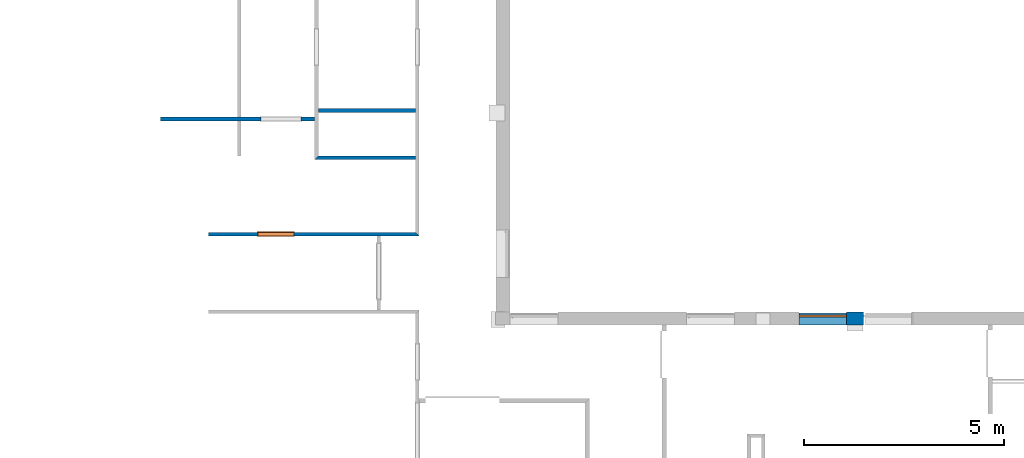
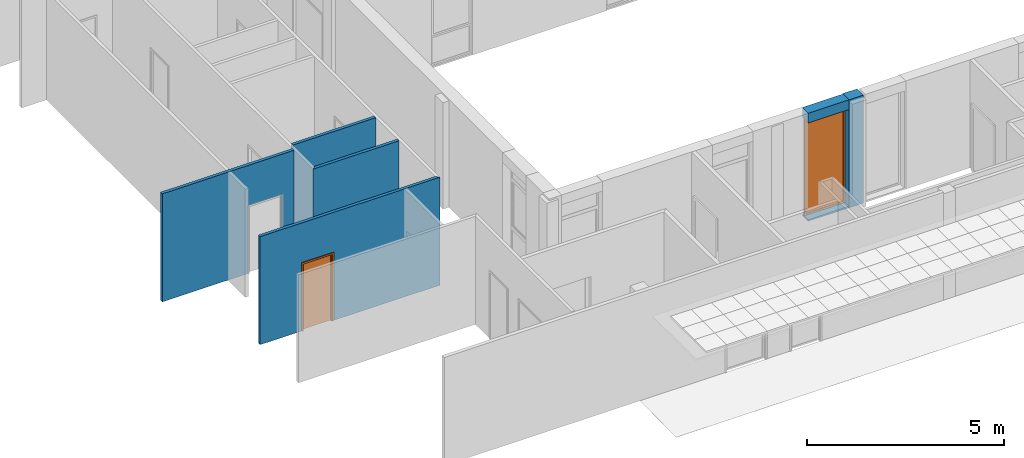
# One storey, part 26 of 60: 6 walls, 2 proxies, 3 openings.
"""IFC2X3 building model written with IfcOpenShell, lengths in millimetres."""

from ifc_helpers import new_model, entity, si_unit, converted_unit, derived_unit, money_unit, direction, frame, origin_with_axes, origin_2d_with_axis, place, context, subcontext, project, spatial, polyline, rectangle, outline, extrude, open_shell, faceted_brep, surface_model, source, transform, mapped, material, layer, layer_set, layer_usage, type_object, element, fill, save


model = new_model("IFC2X3")

# Units and contexts
model_context = context("Model", 3, precision=0.01, world=origin_with_axes(), true_north=direction((0.0, 1.0)))
body_context = subcontext(model_context, "Body", "Model", "MODEL_VIEW")
ifc_project = project(units=[si_unit("LENGTHUNIT", "METRE", prefix="MILLI"), si_unit("AREAUNIT", "SQUARE_METRE"), si_unit("VOLUMEUNIT", "CUBIC_METRE"), converted_unit("PLANEANGLEUNIT", "DEGREE", entity("IfcPlaneAngleMeasure", 0.0174532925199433), si_unit("PLANEANGLEUNIT", "RADIAN"), dimensions=[0, 0, 0, 0, 0, 0, 0]), money_unit("USD"), converted_unit("TIMEUNIT", "Year", entity("IfcTimeMeasure", 31557600.0), si_unit("TIMEUNIT", "SECOND"), dimensions=[0, 0, 1, 0, 0, 0, 0]), si_unit("MASSUNIT", "GRAM", prefix="KILO"), si_unit("THERMODYNAMICTEMPERATUREUNIT", "DEGREE_CELSIUS"), si_unit("LUMINOUSINTENSITYUNIT", "LUMEN"), si_unit("ENERGYUNIT", "JOULE", prefix="MEGA"), derived_unit("THERMALCONDUCTANCEUNIT", [(si_unit("POWERUNIT", "WATT"), 1), (si_unit("LENGTHUNIT", "METRE"), -1), (si_unit("THERMODYNAMICTEMPERATUREUNIT", "KELVIN"), -1)]), derived_unit("SPECIFICHEATCAPACITYUNIT", [(si_unit("ENERGYUNIT", "JOULE"), 1), (si_unit("MASSUNIT", "GRAM", prefix="KILO"), -1), (si_unit("THERMODYNAMICTEMPERATUREUNIT", "KELVIN"), -1)]), derived_unit("MASSDENSITYUNIT", [(si_unit("MASSUNIT", "GRAM", prefix="KILO"), 1), (si_unit("VOLUMEUNIT", "CUBIC_METRE"), -1)])], contexts=[model_context])

# Site, building, storey
site_placement = place(None, origin_with_axes())
site = spatial("IfcSite", under=ifc_project, at=site_placement, Name="Sitio", CompositionType="ELEMENT")
building_placement = place(site_placement, origin_with_axes())
building = spatial("IfcBuilding", under=site, at=building_placement, Name="Construcción", CompositionType="ELEMENT")
storey_placement = place(building_placement, frame((0.0, 0.0, 3650.0), z_axis=(0.0, 0.0, 1.0), x_axis=(1.0, 0.0, 0.0)))
storey = spatial("IfcBuildingStorey", under=building, at=storey_placement, Name="PLANTA 2ª", CompositionType="ELEMENT", Elevation=3650.0)

# Wall, opening, proxy
ifc_material_1 = material(Name="ARQ_AM246_Arrebossat_De_Guix")
ifc_layer_1 = layer(ifc_material_1, 20.0, ventilated="UNKNOWN")
ifc_material_2 = material(Name="ARQ_CE217_Gero")
ifc_layer_2 = layer(ifc_material_2, 110.0, ventilated="UNKNOWN")
ifc_material_3 = material(Name="ARQ_AI031_Aillament_Poliestireno expandido EPS")
ifc_layer_3 = layer(ifc_material_3, 100.0, ventilated="UNKNOWN")
ifc_material_4 = material(Name="ARQ_CE218_Ceramic")
ifc_layer_4 = layer(ifc_material_4, 50.0, ventilated="UNKNOWN")
ifc_layer_5 = layer(ifc_material_1, 20.0, ventilated="UNKNOWN")
ifc_layer_set_1 = layer_set([ifc_layer_1, ifc_layer_2, ifc_layer_3, ifc_layer_4, ifc_layer_5], Name="façana pati CR3 (ampit)")
ifc_layer_usage_1 = layer_usage(ifc_layer_set_1, "AXIS2", "POSITIVE", -300.0000000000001)
wall_type_1 = type_object("IfcWallType", Name="façana pati CR3 (ampit) 300", PredefinedType="NOTDEFINED")
wall_1_placement = place(storey_placement, frame((-19266.10900490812, -12338.97582371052, 0.0), z_axis=(0.0, 0.0, 1.0), x_axis=(-1.0, 0.0, 0.0)))
wall_1 = element("IfcWallStandardCase", 1, at=wall_1_placement, inside=storey, type_object=wall_type_1, material=ifc_layer_usage_1, Name="MS-201", context=body_context, shape_type="SweptSolid", body=[
    extrude(outline(polyline([(0.0, -300.0000000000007), (1194.999999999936, -300.0000000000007), (1194.999999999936, 0.0), (0.0, 0.0), (0.0, -300.0000000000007)])), origin_with_axes(), (0.0, 0.0, 1.0), 3350.0),
])
opening_1_placement = place(wall_1_placement, frame((594.9999999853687, 0.0, 49.99999999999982), z_axis=(0.0, 0.0, 1.0), x_axis=(1.0, 0.0, 0.0)))
opening_1 = element("IfcOpeningElement", 2, at=opening_1_placement, cuts=wall_1, Name="V - 008", context=body_context, shape_type="SweptSolid", body=[
    extrude(rectangle(XDim=1200.000000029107, YDim=3000.0, at=origin_2d_with_axis()), frame((0.0, -250.0, 1500.0), z_axis=(0.0, -1.0, 0.0), x_axis=(-1.0, 0.0, 0.0)), (0.0, 0.0, -1.0), 550.0),
    extrude(rectangle(XDim=1200.000000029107, YDim=3000.0, at=origin_2d_with_axis()), frame((0.0, -250.0, 1500.0), z_axis=(0.0, 1.0, 0.0), x_axis=(-1.0, 0.0, 0.0)), (0.0, 0.0, -1.0), 350.0000000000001),
])
building_element_proxy_type_1 = type_object("IfcBuildingElementProxyType", Name="Ventana Vertical Multi-Faja 27", PredefinedType="NOTDEFINED")
shared_shape_1 = source(origin_with_axes(), body_context, "Body", "SurfaceModel", [
    faceted_brep([(-550.0000000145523, -50.00000000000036, 2950.0), (-550.0000000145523, 0.0, 2950.0), (-600.0000000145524, 0.0, 2950.0), (-600.0000000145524, -50.00000000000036, 2950.0), (-550.0000000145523, -50.00000000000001, 50.0), (-550.0000000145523, 0.0, 50.00000000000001), (-600.0000000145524, 0.0, 50.00000000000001), (-600.0000000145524, -50.00000000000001, 50.0)], [[[0, 1, 2, 3]], [[4, 5, 1, 0]], [[1, 5, 6, 2]], [[3, 2, 6, 7]], [[0, 3, 7, 4]], [[7, 6, 5, 4]]]),
    faceted_brep([(550.0000000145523, -50.00000000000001, 50.0), (550.0000000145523, 0.0, 50.00000000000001), (600.0000000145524, 0.0, 50.00000000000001), (600.0000000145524, -50.00000000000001, 50.0), (550.0000000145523, -50.00000000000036, 2950.0), (550.0000000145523, 0.0, 2950.0), (600.0000000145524, 0.0, 2950.0), (600.0000000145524, -50.00000000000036, 2950.0)], [[[0, 1, 2, 3]], [[4, 5, 1, 0]], [[1, 5, 6, 2]], [[3, 2, 6, 7]], [[0, 3, 7, 4]], [[7, 6, 5, 4]]]),
    faceted_brep([(550.0000000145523, -50.00000000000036, 2950.0), (550.0000000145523, 0.0, 2950.0), (600.0000000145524, 0.0, 2950.0), (600.0000000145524, -50.00000000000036, 2950.0), (-550.0000000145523, -50.00000000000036, 2950.0), (-550.0000000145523, 0.0, 2950.0), (-600.0000000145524, 0.0, 2950.0), (-600.0000000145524, 0.0, 3000.0), (600.0000000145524, 0.0, 3000.0), (600.0000000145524, -50.00000000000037, 3000.0), (-600.0000000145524, -50.00000000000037, 3000.0), (-600.0000000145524, -50.00000000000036, 2950.0)], [[[0, 1, 2, 3]], [[4, 5, 1, 0]], [[1, 5, 6, 7, 8, 2]], [[3, 2, 8, 9]], [[0, 3, 9, 10, 11, 4]], [[11, 6, 5, 4]], [[10, 7, 6, 11]], [[9, 8, 7, 10]]]),
    faceted_brep([(-550.0000000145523, -50.00000000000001, 50.0), (-550.0000000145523, 0.0, 50.00000000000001), (-600.0000000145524, 0.0, 50.00000000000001), (-600.0000000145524, -50.00000000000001, 50.0), (550.0000000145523, -50.00000000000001, 50.0), (550.0000000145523, 0.0, 50.00000000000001), (600.0000000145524, 0.0, 50.00000000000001), (600.0000000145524, 0.0, 0.0), (-600.0000000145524, 0.0, 0.0), (-600.0000000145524, -50.0, 0.0), (600.0000000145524, -50.0, 0.0), (600.0000000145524, -50.00000000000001, 50.0)], [[[0, 1, 2, 3]], [[4, 5, 1, 0]], [[1, 5, 6, 7, 8, 2]], [[3, 2, 8, 9]], [[0, 3, 9, 10, 11, 4]], [[11, 6, 5, 4]], [[10, 7, 6, 11]], [[9, 8, 7, 10]]]),
    surface_model("IfcShellBasedSurfaceModel", [(-550.0000000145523, -35.0, 49.99999999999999), (550.0000000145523, -35.0, 49.99999999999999), (550.0000000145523, -35.00000000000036, 2950.0), (-550.0000000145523, -35.00000000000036, 2950.0)], [open_shell([[[0, 1, 2, 3]]])]),
    surface_model("IfcShellBasedSurfaceModel", [(-550.0000000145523, -15.0, 49.99999999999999), (-550.0000000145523, -15.00000000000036, 2950.0), (550.0000000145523, -15.00000000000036, 2950.0), (550.0000000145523, -15.0, 49.99999999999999)], [open_shell([[[0, 1, 2, 3]]])]),
])
proxy_1_placement = place(opening_1_placement, frame((600.0000000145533, 0.0, 0.0), z_axis=(0.0, 0.0, 1.0), x_axis=(-1.0, 0.0, 0.0)))
proxy_1 = element("IfcBuildingElementProxy", 3, at=proxy_1_placement, inside=storey, type_object=building_element_proxy_type_1, Name="V - 008", context=body_context, shape_type="MappedRepresentation", body=[
    mapped(shared_shape_1, transform((600.0000000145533, 250.0, 0.0))),
])
fill(opening_1, proxy_1)

# Wall
ifc_layer_6 = layer(ifc_material_2, 150.0, ventilated="UNKNOWN")
ifc_layer_7 = layer(ifc_material_3, 100.0, ventilated="UNKNOWN")
ifc_layer_8 = layer(ifc_material_4, 50.0, ventilated="UNKNOWN")
ifc_layer_9 = layer(ifc_material_1, 20.0, ventilated="UNKNOWN")
ifc_layer_set_2 = layer_set([ifc_layer_6, ifc_layer_7, ifc_layer_8, ifc_layer_9], Name="façana pati CR3")
ifc_layer_usage_2 = layer_usage(ifc_layer_set_2, "AXIS2", "POSITIVE", -320.0)
wall_type_2 = type_object("IfcWallType", Name="façana pati CR3 320", PredefinedType="NOTDEFINED")
wall_2_placement = place(storey_placement, frame((-18841.10900490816, -12338.97582371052, 0.0), z_axis=(0.0, 0.0, 1.0), x_axis=(-1.0, 0.0, 0.0)))
element("IfcWallStandardCase", 4, at=wall_2_placement, inside=storey, type_object=wall_type_2, material=ifc_layer_usage_2, Name="MS-201", context=body_context, shape_type="SweptSolid", body=[
    extrude(outline(polyline([(0.0, -320.0000000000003), (424.9999999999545, -320.0000000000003), (424.9999999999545, 0.0), (0.0, 0.0), (0.0, -320.0000000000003)])), origin_with_axes(), (0.0, 0.0, 1.0), 3350.0),
])

# Wall, opening, proxy
ifc_layer_10 = layer(ifc_material_1, 10.0, ventilated="UNKNOWN")
ifc_layer_11 = layer(ifc_material_2, 70.0, ventilated="UNKNOWN")
ifc_layer_12 = layer(ifc_material_1, 10.0, ventilated="UNKNOWN")
ifc_layer_set_3 = layer_set([ifc_layer_10, ifc_layer_11, ifc_layer_12], Name="CR Enva Totxaneta")
ifc_layer_usage_3 = layer_usage(ifc_layer_set_3, "AXIS2", "POSITIVE", 0.0)
wall_type_3 = type_object("IfcWallType", Name="CR Enva Totxaneta 90", PredefinedType="NOTDEFINED")
wall_3_placement = place(storey_placement, frame((-29972.67583112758, -10020.40756299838, 0.0), z_axis=(0.0, 0.0, 1.0), x_axis=(-1.0, 0.0, 0.0)))
wall_3 = element("IfcWallStandardCase", 5, at=wall_3_placement, inside=storey, type_object=wall_type_3, material=ifc_layer_usage_3, Name="MS-203", context=body_context, shape_type="SweptSolid", body=[
    extrude(outline(polyline([(89.99999999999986, 0.0), (5277.90915518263, 0.0), (5277.90915518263, 89.99999999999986), (0.0, 89.99999999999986), (89.99999999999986, 0.0)])), origin_with_axes(), (0.0, 0.0, 1.0), 3350.0),
])
opening_2_placement = place(wall_3_placement, frame((3591.061226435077, 0.0, 0.0), z_axis=(0.0, 0.0, 1.0), x_axis=(1.0, 0.0, 0.0)))
opening_2 = element("IfcOpeningElement", 6, at=opening_2_placement, cuts=wall_3, Name="PF-25D", context=body_context, shape_type="SweptSolid", body=[
    extrude(rectangle(XDim=900.0000000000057, YDim=2100.0, at=origin_2d_with_axis()), frame((0.0, 89.99999999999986, 1050.0), z_axis=(0.0, -1.0, 0.0), x_axis=(-1.0, 0.0, 0.0)), (0.0, 0.0, 1.0), 270.0),
    extrude(rectangle(XDim=944.0000000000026, YDim=2122.0, at=origin_2d_with_axis()), frame((0.0, 89.99999999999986, 1061.0), z_axis=(0.0, -1.0, 0.0), x_axis=(-1.0, 0.0, 0.0)), (0.0, 0.0, -1.0), 90.0),
    extrude(rectangle(XDim=944.0000000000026, YDim=2122.0, at=origin_2d_with_axis()), frame((0.0, 0.0, 1061.0), z_axis=(0.0, 1.0, 0.0), x_axis=(-1.0, 0.0, 0.0)), (0.0, 0.0, -1.0), 90.0),
])
building_element_proxy_type_2 = type_object("IfcBuildingElementProxyType", Name="Puerta 27", PredefinedType="NOTDEFINED")
shared_shape_2 = source(origin_with_axes(), body_context, "Body", "Brep", [
    faceted_brep([(-472.0000000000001, -109.0, 0.0), (-472.0000000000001, -90.0, 0.0), (-422.0000000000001, -90.0, 0.0), (-422.0000000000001, -109.0, 0.0), (-472.0000000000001, -109.0000000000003, 2122.0), (-472.0000000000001, -90.00000000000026, 2122.0), (-422.0000000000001, -90.00000000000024, 2072.0), (-422.0000000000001, -109.0000000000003, 2072.0)], [[[0, 1, 2, 3]], [[4, 5, 1, 0]], [[1, 5, 6, 2]], [[3, 2, 6, 7]], [[0, 3, 7, 4]], [[7, 6, 5, 4]]]),
    faceted_brep([(472.0000000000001, -109.0000000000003, 2122.0), (472.0000000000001, -90.00000000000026, 2122.0), (422.0000000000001, -90.00000000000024, 2072.0), (422.0000000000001, -109.0000000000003, 2072.0), (472.0000000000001, -109.0, 0.0), (472.0000000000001, -90.0, 0.0), (422.0000000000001, -90.0, 0.0), (422.0000000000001, -109.0, 0.0)], [[[0, 1, 2, 3]], [[4, 5, 1, 0]], [[1, 5, 6, 2]], [[3, 2, 6, 7]], [[0, 3, 7, 4]], [[7, 6, 5, 4]]]),
    faceted_brep([(-472.0000000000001, -109.0000000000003, 2122.0), (-472.0000000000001, -90.00000000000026, 2122.0), (-422.0000000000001, -90.00000000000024, 2072.0), (-422.0000000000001, -109.0000000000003, 2072.0), (472.0000000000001, -109.0000000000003, 2122.0), (472.0000000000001, -90.00000000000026, 2122.0), (422.0000000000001, -90.00000000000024, 2072.0), (422.0000000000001, -109.0000000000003, 2072.0)], [[[0, 1, 2, 3]], [[4, 5, 1, 0]], [[1, 5, 6, 2]], [[3, 2, 6, 7]], [[0, 3, 7, 4]], [[7, 6, 5, 4]]]),
    faceted_brep([(-472.0000000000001, 19.0, 0.0), (-422.0000000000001, 19.0, 0.0), (-422.0000000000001, 0.0, 0.0), (-472.0000000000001, 0.0, 0.0), (-472.0000000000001, 18.99999999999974, 2122.0), (-422.0000000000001, 18.99999999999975, 2072.0), (-422.0000000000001, 0.0, 2072.0), (-472.0000000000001, 0.0, 2122.0)], [[[0, 1, 2, 3]], [[0, 4, 5, 1]], [[1, 5, 6, 2]], [[3, 2, 6, 7]], [[4, 0, 3, 7]], [[5, 4, 7, 6]]]),
    faceted_brep([(472.0000000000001, 18.99999999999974, 2122.0), (422.0000000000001, 18.99999999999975, 2072.0), (422.0000000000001, 0.0, 2072.0), (472.0000000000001, 0.0, 2122.0), (472.0000000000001, 19.0, 0.0), (422.0000000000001, 19.0, 0.0), (422.0000000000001, 0.0, 0.0), (472.0000000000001, 0.0, 0.0)], [[[0, 1, 2, 3]], [[0, 4, 5, 1]], [[1, 5, 6, 2]], [[3, 2, 6, 7]], [[4, 0, 3, 7]], [[5, 4, 7, 6]]]),
    faceted_brep([(-472.0000000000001, 18.99999999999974, 2122.0), (-422.0, 18.99999999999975, 2072.0), (-422.0, 0.0, 2072.0), (-472.0000000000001, 0.0, 2122.0), (472.0000000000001, 18.99999999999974, 2122.0), (422.0, 18.99999999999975, 2072.0), (422.0, 0.0, 2072.0), (472.0000000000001, 0.0, 2122.0)], [[[0, 1, 2, 3]], [[0, 4, 5, 1]], [[1, 5, 6, 2]], [[3, 2, 6, 7]], [[4, 0, 3, 7]], [[5, 4, 7, 6]]]),
    faceted_brep([(-409.9999999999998, -40.0, 0.0), (-410.0000000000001, -40.0, 2060.0), (-410.0000000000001, -90.0, 2060.0), (-410.0000000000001, -90.0, 0.0), (-422.0000000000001, -40.0, 2060.0), (-422.0000000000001, -40.0, 0.0), (-422.0000000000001, 0.0, 2060.0), (-449.9999999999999, 0.0, 2060.0), (-449.9999999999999, -90.0, 2060.0), (-449.9999999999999, -90.0, 0.0), (-449.9999999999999, 0.0, 0.0), (-422.0000000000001, 0.0, 0.0)], [[[0, 1, 2, 3]], [[4, 1, 0, 5]], [[4, 6, 7, 8, 2, 1]], [[3, 2, 8, 9]], [[5, 0, 3, 9, 10, 11]], [[6, 4, 5, 11]], [[6, 11, 10, 7]], [[10, 9, 8, 7]]]),
    faceted_brep([(422.0000000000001, -40.0, 2060.0), (410.0000000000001, -40.0, 2060.0), (410.0000000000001, -90.0, 2060.0), (449.9999999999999, -90.0, 2060.0), (449.9999999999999, 0.0, 2060.0), (422.0000000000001, 0.0, 2060.0), (422.0000000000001, -40.0, 0.0), (410.0000000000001, -40.0, 0.0), (410.0000000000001, -90.0, 0.0), (449.9999999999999, -90.0, 0.0), (449.9999999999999, 0.0, 0.0), (422.0000000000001, 0.0, 0.0)], [[[0, 1, 2, 3, 4, 5]], [[1, 0, 6, 7]], [[1, 7, 8, 2]], [[3, 2, 8, 9]], [[4, 3, 9, 10]], [[11, 5, 4, 10]], [[0, 5, 11, 6]], [[6, 11, 10, 9, 8, 7]]]),
    faceted_brep([(-422.0000000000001, 0.0, 2072.0), (-422.0000000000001, 0.0, 2060.0), (-450.0, 0.0, 2060.0), (-450.0, 0.0, 2100.0), (450.0, 0.0, 2100.0), (450.0, 0.0, 2060.0), (422.0000000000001, 0.0, 2060.0), (422.0000000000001, 0.0, 2072.0), (-422.0000000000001, -40.0, 2072.0), (-422.0000000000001, -40.0, 2060.0), (-410.0000000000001, -40.0, 2060.0), (-410.0000000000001, -90.0, 2060.0), (-450.0, -90.0, 2060.0), (-450.0, -90.0, 2100.0), (450.0, -90.0, 2100.0), (450.0, -90.0, 2060.0), (422.0000000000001, -40.0, 2060.0), (410.0000000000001, -90.0, 2060.0), (410.0000000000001, -40.0, 2060.0), (422.0000000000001, -40.0, 2072.0)], [[[0, 1, 2, 3, 4, 5, 6, 7]], [[1, 0, 8, 9]], [[9, 10, 11, 12, 2, 1]], [[2, 12, 13, 3]], [[3, 13, 14, 4]], [[4, 14, 15, 5]], [[16, 6, 5, 15, 17, 18]], [[7, 6, 16, 19]], [[0, 7, 19, 8]], [[16, 18, 10, 9, 8, 19]], [[10, 18, 17, 11]], [[17, 15, 14, 13, 12, 11]]]),
    faceted_brep([(421.9999999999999, 0.0, 0.0), (421.9999999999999, -40.0, 0.0), (-422.0000000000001, -40.0, 0.0), (-422.0000000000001, 0.0, 0.0), (421.9999999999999, 0.0, 2072.0), (421.9999999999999, -40.00000000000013, 2072.0), (-422.0000000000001, -40.00000000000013, 2072.0), (-422.0000000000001, 0.0, 2072.0)], [[[0, 1, 2, 3]], [[4, 5, 1, 0]], [[1, 5, 6, 2]], [[3, 2, 6, 7]], [[0, 3, 7, 4]], [[7, 6, 5, 4]]]),
])
proxy_2_placement = place(opening_2_placement, frame((450.0000000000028, 0.0, 0.0), z_axis=(0.0, 0.0, 1.0), x_axis=(-1.0, 0.0, 0.0)))
proxy_2 = element("IfcBuildingElementProxy", 7, at=proxy_2_placement, inside=storey, type_object=building_element_proxy_type_2, Name="PF-25D", context=body_context, shape_type="MappedRepresentation", body=[
    mapped(shared_shape_2, transform((450.0000000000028, 0.0, 0.0))),
])
fill(opening_2, proxy_2)

# Walls
ifc_layer_usage_4 = layer_usage(ifc_layer_set_3, "AXIS2", "POSITIVE", 0.0)
wall_4_placement = place(storey_placement, frame((-29972.67583112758, -6922.703058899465, 0.0), z_axis=(0.0, 0.0, 1.0), x_axis=(-1.0, 0.0, 0.0)))
element("IfcWallStandardCase", 8, at=wall_4_placement, inside=storey, type_object=wall_type_3, material=ifc_layer_usage_4, Name="MS-203", context=body_context, shape_type="SweptSolid", body=[
    extrude(outline(polyline([(89.99999999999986, 0.0), (2525.981922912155, 0.0), (2525.981922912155, 89.99999999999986), (89.99999999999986, 89.99999999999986), (89.99999999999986, 0.0)])), origin_with_axes(), (0.0, 0.0, 1.0), 3350.0),
])
ifc_layer_usage_5 = layer_usage(ifc_layer_set_3, "AXIS2", "POSITIVE", 0.0)
wall_5_placement = place(storey_placement, frame((-29972.67583112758, -8102.702553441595, 0.0), z_axis=(0.0, 0.0, 1.0), x_axis=(-1.0, 0.0, 0.0)))
element("IfcWallStandardCase", 9, at=wall_5_placement, inside=storey, type_object=wall_type_3, material=ifc_layer_usage_5, Name="MS-203", context=body_context, shape_type="SweptSolid", body=[
    extrude(outline(polyline([(89.99999999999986, 0.0), (2525.981922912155, 0.0), (2615.981922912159, 89.99999999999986), (89.99999999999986, 89.99999999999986), (89.99999999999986, 0.0)])), origin_with_axes(), (0.0, 0.0, 1.0), 3350.0),
])

# Wall, opening
ifc_layer_usage_6 = layer_usage(ifc_layer_set_3, "AXIS2", "POSITIVE", 0.0)
wall_6_placement = place(storey_placement, frame((-32498.65775403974, -7134.75666371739, 0.0), z_axis=(0.0, 0.0, 1.0), x_axis=(-1.0, 0.0, 0.0)))
wall_6 = element("IfcWallStandardCase", 10, at=wall_6_placement, inside=storey, type_object=wall_type_3, material=ifc_layer_usage_6, Name="MS-203", context=body_context, shape_type="SweptSolid", body=[
    extrude(outline(polyline([(90.00000000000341, 0.0), (3952.150607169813, 0.0), (3952.150607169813, 89.99999999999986), (90.00000000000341, 89.99999999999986), (90.00000000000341, 0.0)])), origin_with_axes(), (0.0, 0.0, 1.0), 3350.0),
])
opening_3_placement = place(wall_6_placement, frame((935.0857217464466, 0.0, 0.0), z_axis=(0.0, 0.0, 1.0), x_axis=(1.0, 0.0, 0.0)))
element("IfcOpeningElement", 11, at=opening_3_placement, cuts=wall_6, Name="PF-24D", context=body_context, shape_type="SweptSolid", body=[
    extrude(rectangle(XDim=1000.0, YDim=2100.0, at=origin_2d_with_axis()), frame((0.0, 89.99999999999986, 1049.999999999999), z_axis=(0.0, -1.0, 0.0), x_axis=(-1.0, 0.0, 0.0)), (0.0, 0.0, 1.0), 270.0),
    extrude(rectangle(XDim=1043.999999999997, YDim=2122.000000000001, at=origin_2d_with_axis()), frame((0.0, 89.99999999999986, 1061.0), z_axis=(0.0, -1.0, 0.0), x_axis=(-1.0, 0.0, 0.0)), (0.0, 0.0, -1.0), 90.0),
    extrude(rectangle(XDim=1043.999999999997, YDim=2122.0, at=origin_2d_with_axis()), frame((0.0, 0.0, 1061.0), z_axis=(0.0, 1.0, 0.0), x_axis=(-1.0, 0.0, 0.0)), (0.0, 0.0, -1.0), 90.0),
])

save(model, "model.ifc")
